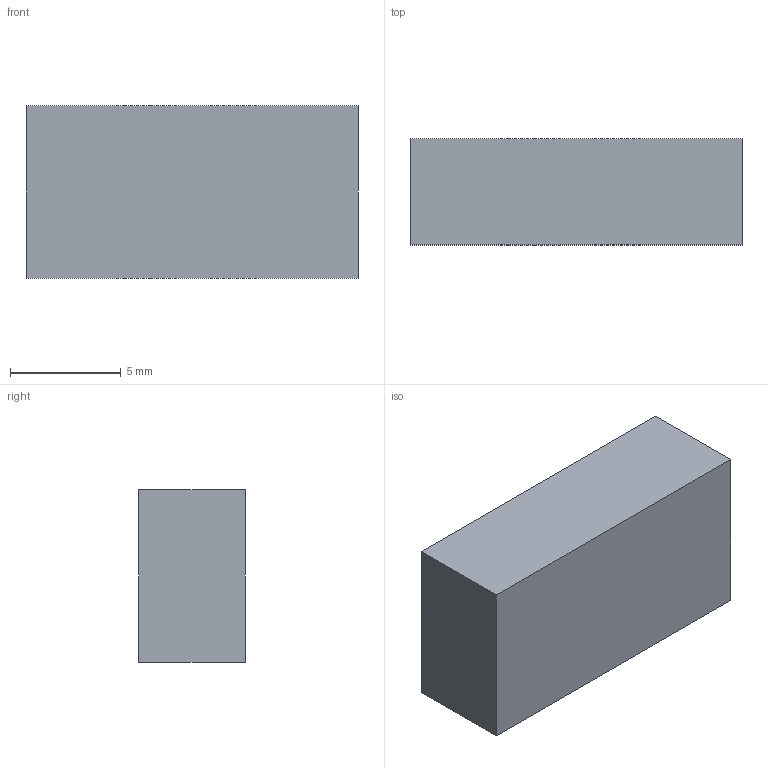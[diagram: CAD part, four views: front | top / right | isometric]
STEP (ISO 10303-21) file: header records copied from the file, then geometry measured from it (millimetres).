
FILE_DESCRIPTION(('Open CASCADE Model'),'2;1');
FILE_NAME('Open CASCADE Shape Model','2026-09-24T05:33:18',('Author'),( 'Open CASCADE'),'Open CASCADE STEP processor 7.8','Open CASCADE 7.8' ,'Unknown');
FILE_SCHEMA(('AUTOMOTIVE_DESIGN { 1 0 10303 214 1 1 1 1 }'));
Length unit declared in the file: millimetre
Products named in the file (1): Open CASCADE STEP translator 7.8 40
Bounding box: 15 x 4.8 x 7.8 mm (x, y, z)
Volume: 561.6 mm3; surface area: 452.9 mm2
Topology: 1 solids, 1 shells, 6 faces, 12 edges, 8 vertices
Faces by surface type: plane 6
Entity records: 322 total; most frequent: CARTESIAN_POINT 51, DIRECTION 50, LINE 36, VECTOR 36, ORIENTED_EDGE 24, PCURVE 24, DEFINITIONAL_REPRESENTATION 24, EDGE_CURVE 12
